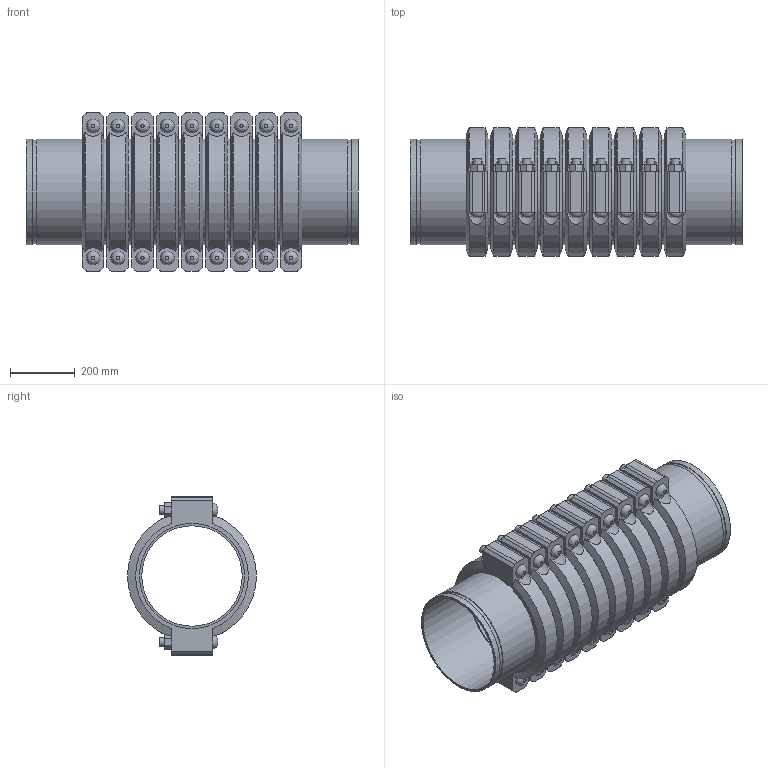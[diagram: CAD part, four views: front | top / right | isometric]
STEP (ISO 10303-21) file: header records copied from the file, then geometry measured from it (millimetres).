
FILE_DESCRIPTION(/* description */ ('VIC SS EXPANSION JOINT 9 COUPLINGS EXPANDED STYLE 155P (OGS) (POTABLE WATER) ','CAx-IF Rec.Pracs.---Representation and Presentation of Product Manufacturing Information (PMI)---4.0---2014-10-13'),/* implementation_level */ '2;1');
FILE_NAME(/* name */ 'C:\Users\kkamble\AppData\Roaming\Autodesk\ApplicationPlugins\Victaulic.Temp\A474\Victaulic_SS_Expansion Joint_Expanded_9 Couplings_Style 155P (OGS)-Potable Water_9 Coup_Expd_12 (300).stp',/* time_stamp */ '2021-07-16T16:58:16+05:00',/* author */ ('kkamble'),/* organization */ ('Victaulic'),/* preprocessor_version */ 'ST-DEVELOPER v17.2',/* originating_system */ 'Autodesk Inventor 2019',/* authorisation */ '');
FILE_SCHEMA (('AP242_MANAGED_MODEL_BASED_3D_ENGINEERING_MIM_LF { 1 0 10303 442 1 1 4 }'));
Length unit declared in the file: inch
Products named in the file (4): 155P-12.0; Nipple-12.0; Nipple-12.0_1; 077-12.0
Assembly tree (19 placements, depth 2):
  155P-12.0
    Nipple-12.0  x2
    Nipple-12.0_1  x8
    077-12.0  x9
Bounding box: 1022.35 x 397 x 488.95 mm (x, y, z)
Volume: 37002456.4 mm3; surface area: 5104742.9 mm2
Topology: 19 solids, 37 shells, 669 faces, 1605 edges, 1122 vertices
Faces by surface type: plane 384, cylinder 231, cone 36, bspline 18
Full cylindrical faces by diameter (mm): 25.4 x36, 27.432 x18, 309.677 x10, 314.96 x9, 318.287 x20, 323.85 x48
Entity records: 3112 total; most frequent: CARTESIAN_POINT 667, DIRECTION 493, ORIENTED_EDGE 410, EDGE_CURVE 205, AXIS2_PLACEMENT_3D 202, VERTEX_POINT 146, EDGE_LOOP 111, CIRCLE 96
